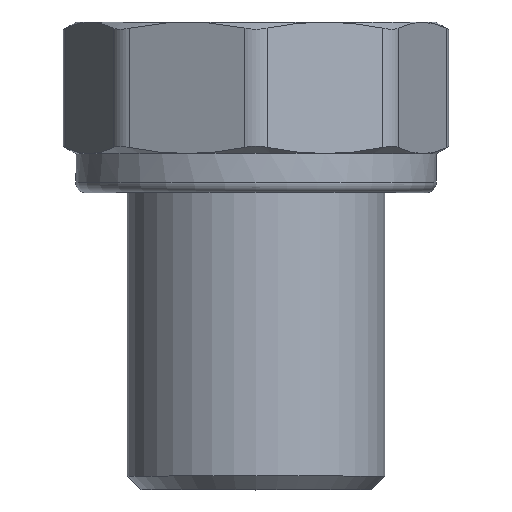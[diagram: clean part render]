
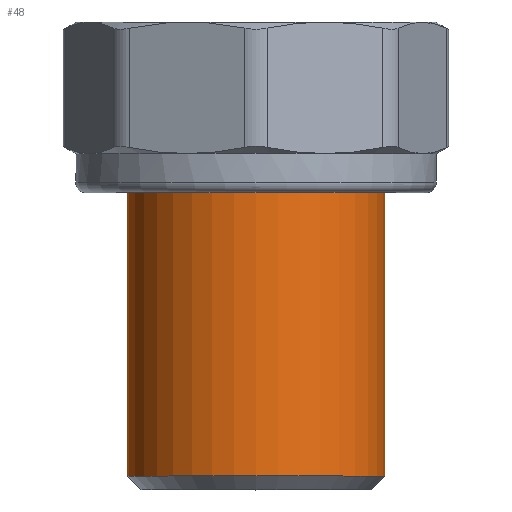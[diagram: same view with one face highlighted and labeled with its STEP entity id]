
A CAD part, top view. The second image highlights one B-rep face of the part: STEP entity #48.
In plain terms, the highlighted cylindrical face has radius 13.22 mm (diameter 26.441 mm), a full revolution.
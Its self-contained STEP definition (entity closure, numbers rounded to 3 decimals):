
#48=ADVANCED_FACE('',(#236),#238,.T.);
#236=FACE_BOUND('',#237,.T.);
#237=EDGE_LOOP('',(#1292,#1293,#1294,#1295));
#238=CYLINDRICAL_SURFACE('',#239,13.221);
#239=AXIS2_PLACEMENT_3D('',#240,#241,#242);
#240=CARTESIAN_POINT('',(0.,0.,0.));
#241=DIRECTION('',(0.,-1.,0.));
#242=DIRECTION('',(1.,0.,0.));
#1292=ORIENTED_EDGE('',*,*,#2346,.F.);
#1293=ORIENTED_EDGE('',*,*,#2347,.F.);
#1294=ORIENTED_EDGE('',*,*,#2342,.F.);
#1295=ORIENTED_EDGE('',*,*,#2347,.T.);
#2342=EDGE_CURVE('',#2766,#2766,#2767,.F.);
#2346=EDGE_CURVE('',#2773,#2773,#2774,.T.);
#2347=EDGE_CURVE('',#2766,#2773,#2775,.T.);
#2766=VERTEX_POINT('',#3473);
#2767=CIRCLE('',#3474,13.221);
#2773=VERTEX_POINT('',#3491);
#2774=CIRCLE('',#3492,13.221);
#2775=LINE('',#3496,#3497);
#3473=CARTESIAN_POINT('',(13.221,-3.,0.));
#3474=AXIS2_PLACEMENT_3D('',#3475,#3476,#3477);
#3475=CARTESIAN_POINT('',(0.,-3.,0.));
#3476=DIRECTION('',(0.,-1.,0.));
#3477=DIRECTION('',(1.,0.,0.));
#3491=CARTESIAN_POINT('',(13.221,-35.1,0.));
#3492=AXIS2_PLACEMENT_3D('',#3493,#3494,#3495);
#3493=CARTESIAN_POINT('',(0.,-35.1,0.));
#3494=DIRECTION('',(0.,-1.,0.));
#3495=DIRECTION('',(1.,0.,0.));
#3496=CARTESIAN_POINT('',(13.221,-3.,0.));
#3497=VECTOR('',#3498,1.);
#3498=DIRECTION('',(0.,-1.,0.));
